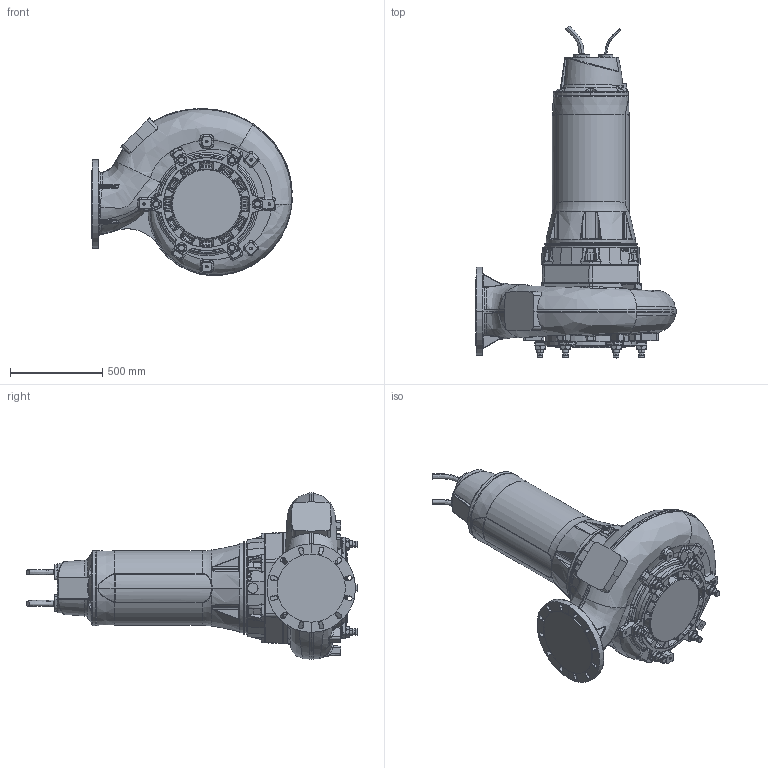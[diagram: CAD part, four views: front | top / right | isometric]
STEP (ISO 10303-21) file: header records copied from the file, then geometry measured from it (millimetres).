
FILE_DESCRIPTION (( 'STEP AP214' ), '1' );
FILE_NAME ('PE5_XFP306M-CB2_MOTOR OK_A_NG2.STEP', '2017-03-14T08:53:16', ( '' ), ( '' ), 'SwSTEP 2.0', 'SolidWorks 2017', '' );
FILE_SCHEMA (( 'AUTOMOTIVE_DESIGN' ));
Length unit declared in the file: millimetre
Products named in the file (1): PE5_XFP306M-CB2_MOTOR OK_A_NG2
Bounding box: 1089.63 x 1801.58 x 906.43 mm (x, y, z)
Volume: 114428.5 mm3; surface area: 4676238.5 mm2
Topology: 29 solids, 30 shells, 2869 faces, 6953 edges, 4121 vertices
Faces by surface type: bspline 975, cylinder 644, plane 541, cone 370, torus 307, sphere 32
Entity records: 183554 total; most frequent: CARTESIAN_POINT 93079, ORIENTED_EDGE 13704, DIRECTION 10492, EDGE_CURVE 6852, AXIS2_PLACEMENT_3D 4424, VERTEX_POINT 4115, EDGE_LOOP 3019, UNCERTAINTY_MEASURE_WITH_UNIT 2873
